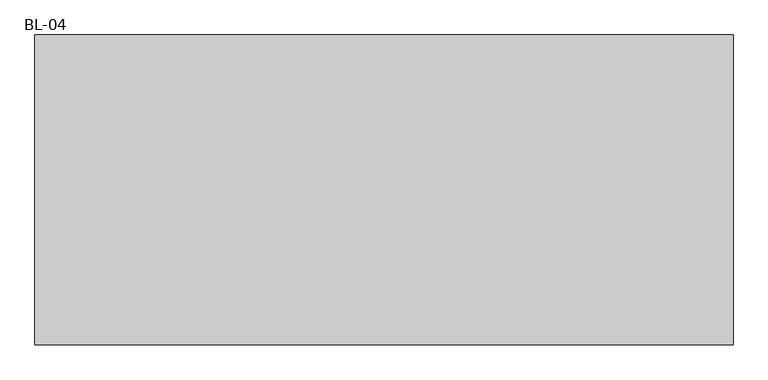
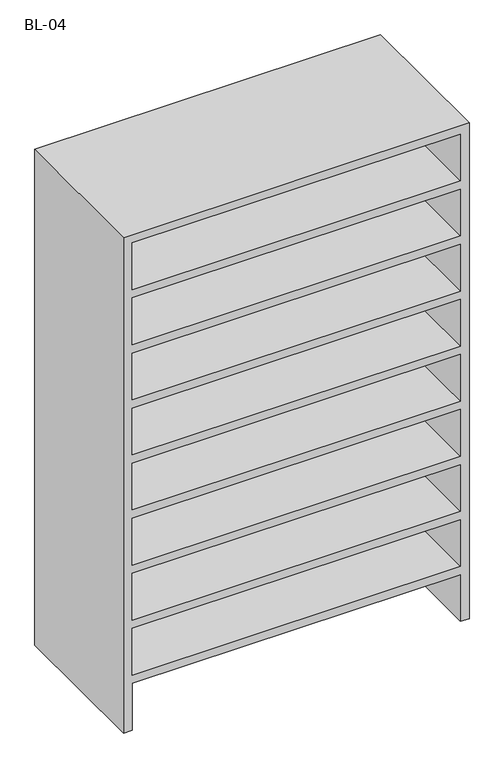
"""IFC4 building model written with IfcOpenShell, lengths in millimetres: furniture geometry, 8 ESTANTES-BLANCOS : BL-04."""

from ifc_helpers import new_model, si_unit, frame, origin, place, context, project, spatial, polyline, outline, extrude, source, transform, mapped, element, save


def bl_04_daa79088(model_context):
    return source(origin(), model_context, "Body", "SweptSolid", [
        extrude(outline(polyline([(0.0, -636.0697951), (0.0, -600.0697951), (202.8888889, -600.0697951), (202.8888889, 747.9302049), (0.0, 747.9302049), (0.0, 783.9302049), (2150.0, 783.9302049), (2150.0, -636.0697951), (0.0, -636.0697951)]), holes=[polyline([(1397.3333333, 747.9302049), (1194.4444444, 747.9302049), (1194.4444444, -600.0697951), (1397.3333333, -600.0697951), (1397.3333333, 747.9302049)]), polyline([(716.6666667, -600.0697951), (919.5555556, -600.0697951), (919.5555556, 747.9302049), (716.6666667, 747.9302049), (716.6666667, -600.0697951)]), polyline([(477.7777778, -600.0697951), (680.6666667, -600.0697951), (680.6666667, 747.9302049), (477.7777778, 747.9302049), (477.7777778, -600.0697951)]), polyline([(238.8888889, -600.0697951), (441.7777778, -600.0697951), (441.7777778, 747.9302049), (238.8888889, 747.9302049), (238.8888889, -600.0697951)]), polyline([(955.5555556, 747.9302049), (955.5555556, -600.0697951), (1158.4444444, -600.0697951), (1158.4444444, 747.9302049), (955.5555556, 747.9302049)]), polyline([(1911.1111111, -600.0697951), (2114.0, -600.0697951), (2114.0, 747.9302049), (1911.1111111, 747.9302049), (1911.1111111, -600.0697951)]), polyline([(1433.3333333, 747.9302049), (1433.3333333, -600.0697951), (1636.2222222, -600.0697951), (1636.2222222, 747.9302049), (1433.3333333, 747.9302049)]), polyline([(1875.1111111, -600.0697951), (1875.1111111, 747.9302049), (1672.2222222, 747.9302049), (1672.2222222, -600.0697951), (1875.1111111, -600.0697951)])]), frame((0.0, 100.0, 0.0), z_axis=(0.0, 1.0, 0.0), x_axis=(0.0, 0.0, 1.0)), (0.0, 0.0, 1.0), 630.0),
    ])


if __name__ == "__main__":
    model = new_model("IFC4")
    model_context = context("Model", 3, world=origin())
    ifc_project = project(units=[si_unit("LENGTHUNIT", "METRE", prefix="MILLI")], contexts=[model_context])
    site = spatial("IfcSite", under=ifc_project)
    building = spatial("IfcBuilding", under=site)
    placement = place(None, origin())
    bl_04_shape = bl_04_daa79088(model_context)
    element("IfcFurniture", 1, ObjectType="8 ESTANTES-BLANCOS : BL-04", at=placement, inside=building, context=model_context, shape_type="MappedRepresentation", body=[
        mapped(bl_04_shape, transform((0.0, 0.0, 0.0), x_axis=(1.0, 0.0, 0.0), y_axis=(0.0, 1.0, 0.0), z_axis=(0.0, 0.0, 1.0))),
    ])
    save(model, "model.ifc")
